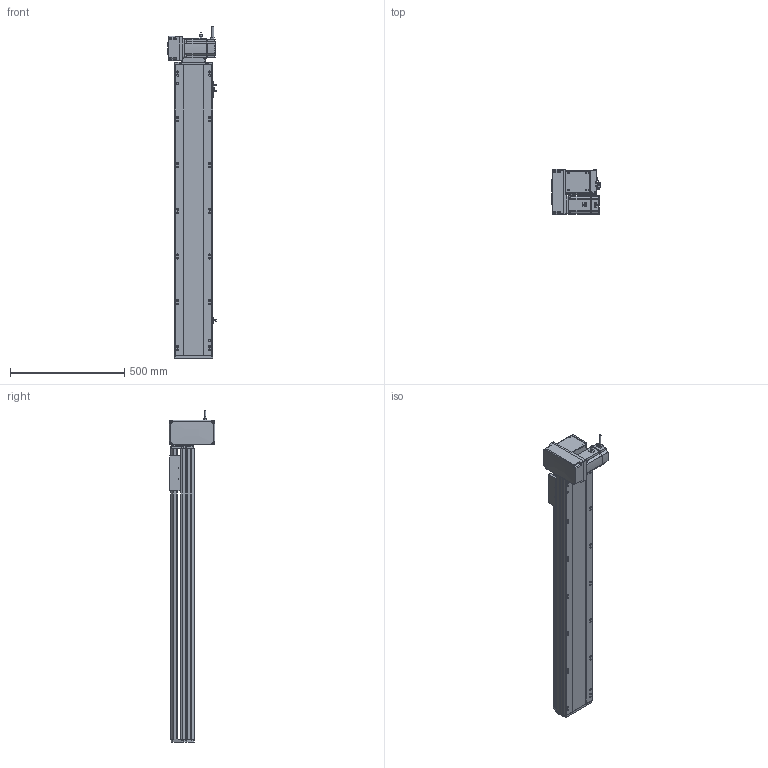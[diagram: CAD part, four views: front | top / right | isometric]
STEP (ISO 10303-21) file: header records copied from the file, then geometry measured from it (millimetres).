
FILE_DESCRIPTION (( 'STEP AP214' ), '1' );
FILE_NAME ('RTB17S-XX-1000-LM-M75-C4.STEP', '2025-12-12T00:38:12', ( '' ), ( '' ), 'SwSTEP 2.0', 'SolidWorks 2018', '' );
FILE_SCHEMA (( 'AUTOMOTIVE_DESIGN' ));
Length unit declared in the file: millimetre
Products named in the file (15): RTB22S-GY-017P^RTB17S-LM-々湍釱蚾饜-750W_RTB17S-XX-XX-LM-M75-C4; 750W萇儂^RTB17S-XX-XX-LM-M75-C4; RTB22S-GY-005P^RTB17S-LM-々湍釱蚾饜-750W_RTB17S-XX-XX-LM-M75-C4; RTB17S-LM-々湍釱蚾饜-750W^RTB17S-XX-XX-LM-M75-C4; EE672^RTB17S-XX-XX-LM-M75-C4; RTB17-R-011菁釱^RTB17S-XX-XX-LM-M75-C4; RTB22S-GY-018P^RTB17S-LM-々湍釱蚾饜-750W_RTB17S-XX-XX-LM-M75-C4; RTB17S-賑釱^RTB17S-XX-XX-LM-M75-C4; RTB22S-GY-008-M75--萇儂啣^RTB17S-LM-々湍釱蚾饜-750W_RTB17S-XX-XX-LM-M75-C4; RTH13-BL-012覜茼え俋离^RTB17S-賑釱_RTB17S-XX-XX-LM-M75-C4; RTB17S-L-001-耜醱啣^RTB17S-XX-XX-LM-M75-C4; RTB17S-L-007奻裔^RTB17S-XX-XX-LM-M75-C4; RTB17S-L-004-賑釱^RTB17S-賑釱_RTB17S-XX-XX-LM-M75-C4; RTB17S-L-014-T20-P75--々湍釱^RTB17S-LM-々湍釱蚾饜-750W_RTB17S-XX-XX-LM-M75-C4; RTB17S-XX-1000-LM-M75-C4
Assembly tree (17 placements, depth 3):
  RTB17S-XX-1000-LM-M75-C4
    RTB17-R-011菁釱^RTB17S-XX-XX-LM-M75-C4
    EE672^RTB17S-XX-XX-LM-M75-C4  x3
    RTB17S-L-001-耜醱啣^RTB17S-XX-XX-LM-M75-C4
    RTB17S-賑釱^RTB17S-XX-XX-LM-M75-C4
      RTB17S-L-004-賑釱^RTB17S-賑釱_RTB17S-XX-XX-LM-M75-C4
      RTH13-BL-012覜茼え俋离^RTB17S-賑釱_RTB17S-XX-XX-LM-M75-C4
    RTB17S-L-007奻裔^RTB17S-XX-XX-LM-M75-C4
    750W萇儂^RTB17S-XX-XX-LM-M75-C4
    RTB17S-LM-々湍釱蚾饜-750W^RTB17S-XX-XX-LM-M75-C4
      RTB17S-L-014-T20-P75--々湍釱^RTB17S-LM-々湍釱蚾饜-750W_RTB17S-XX-XX-LM-M75-C4
      RTB22S-GY-005P^RTB17S-LM-々湍釱蚾饜-750W_RTB17S-XX-XX-LM-M75-C4
      RTB22S-GY-017P^RTB17S-LM-々湍釱蚾饜-750W_RTB17S-XX-XX-LM-M75-C4  x2
      RTB22S-GY-008-M75--萇儂啣^RTB17S-LM-々湍釱蚾饜-750W_RTB17S-XX-XX-LM-M75-C4
      RTB22S-GY-018P^RTB17S-LM-々湍釱蚾饜-750W_RTB17S-XX-XX-LM-M75-C4
Bounding box: 210.4 x 200 x 1452.2 mm (x, y, z)
Volume: 12203760.2 mm3; surface area: 2070019.7 mm2
Topology: 17 solids, 17 shells, 2089 faces, 5782 edges, 3734 vertices
Faces by surface type: plane 970, cylinder 703, bspline 294, cone 110, sphere 8, torus 4
Entity records: 58102 total; most frequent: CARTESIAN_POINT 17046, ORIENTED_EDGE 8408, DIRECTION 7862, EDGE_CURVE 4204, AXIS2_PLACEMENT_3D 2754, VERTEX_POINT 2738, LINE 2354, VECTOR 2354
